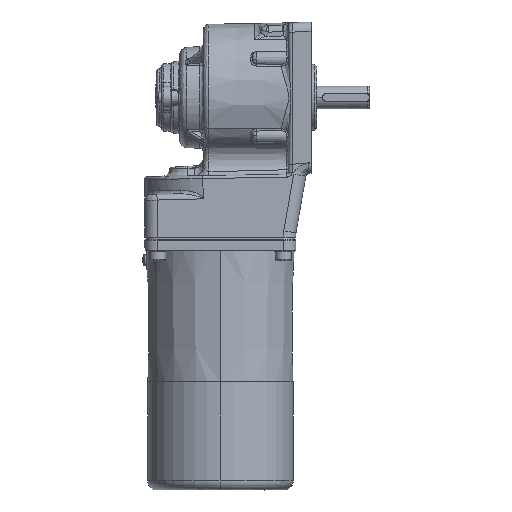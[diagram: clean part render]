
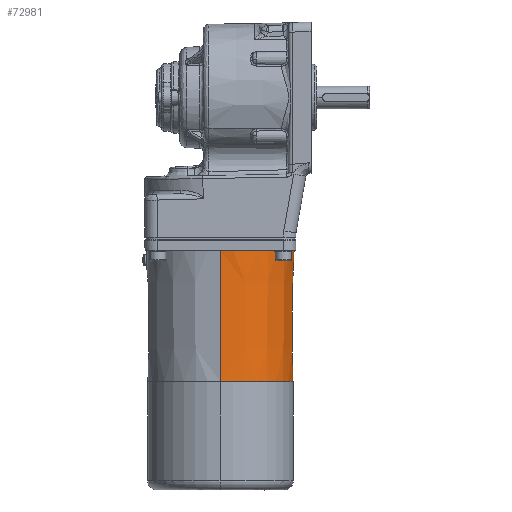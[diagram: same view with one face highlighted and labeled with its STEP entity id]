
A CAD part, front view. The second image highlights one B-rep face of the part: STEP entity #72981.
In plain terms, the highlighted conical face has half-angle 0.5 degrees and reference radius 39 mm.
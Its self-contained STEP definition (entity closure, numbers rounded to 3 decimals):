
#1733 = VERTEX_POINT ( 'NONE', #5508 ) ;
#5508 = CARTESIAN_POINT ( 'NONE',  ( 0., 69.5, -38.393 ) ) ;
#6216 = CARTESIAN_POINT ( 'NONE',  ( 0., 0., 0. ) ) ;
#6963 = ORIENTED_EDGE ( 'NONE', *, *, #81212, .T. ) ;
#12485 = CIRCLE ( 'NONE', #27875, 39. ) ;
#12793 = DIRECTION ( 'NONE',  ( 0., 0., -1. ) ) ;
#13127 = DIRECTION ( 'NONE',  ( 0., -1., 0. ) ) ;
#14614 = VECTOR ( 'NONE', #63664, 1000. ) ;
#15673 = LINE ( 'NONE', #18742, #14614 ) ;
#16644 = EDGE_LOOP ( 'NONE', ( #47864, #6963, #45558, #36335 ) ) ;
#18742 = CARTESIAN_POINT ( 'NONE',  ( 0., 0., 39. ) ) ;
#22161 = CONICAL_SURFACE ( 'NONE', #59115, 39., 0.009 ) ;
#27875 = AXIS2_PLACEMENT_3D ( 'NONE', #6216, #51429, #12793 ) ;
#30836 = CARTESIAN_POINT ( 'NONE',  ( 0., 69.5, 38.393 ) ) ;
#36335 = ORIENTED_EDGE ( 'NONE', *, *, #83055, .F. ) ;
#36976 = CARTESIAN_POINT ( 'NONE',  ( 0., 69.5, 0. ) ) ;
#43418 = DIRECTION ( 'NONE',  ( 0., 0., -1. ) ) ;
#45558 = ORIENTED_EDGE ( 'NONE', *, *, #80944, .T. ) ;
#46682 = CIRCLE ( 'NONE', #58057, 38.393 ) ;
#47864 = ORIENTED_EDGE ( 'NONE', *, *, #82594, .T. ) ;
#48672 = VERTEX_POINT ( 'NONE', #82534 ) ;
#51429 = DIRECTION ( 'NONE',  ( 0., 1., 0. ) ) ;
#52291 = LINE ( 'NONE', #55122, #52589 ) ;
#52589 = VECTOR ( 'NONE', #61603, 1000. ) ;
#55122 = CARTESIAN_POINT ( 'NONE',  ( 0., 0., -39. ) ) ;
#57585 = VERTEX_POINT ( 'NONE', #63389 ) ;
#58057 = AXIS2_PLACEMENT_3D ( 'NONE', #36976, #81659, #43418 ) ;
#58479 = VERTEX_POINT ( 'NONE', #30836 ) ;
#59115 = AXIS2_PLACEMENT_3D ( 'NONE', #77396, #13127, #81223 ) ;
#61603 = DIRECTION ( 'NONE',  ( 0., -1., -0.009 ) ) ;
#63389 = CARTESIAN_POINT ( 'NONE',  ( 0., 0., 39. ) ) ;
#63664 = DIRECTION ( 'NONE',  ( 0., -1., 0.009 ) ) ;
#69769 = FACE_OUTER_BOUND ( 'NONE', #16644, .T. ) ;
#72981 = ADVANCED_FACE ( 'NONE', ( #69769 ), #22161, .T. ) ;
#77396 = CARTESIAN_POINT ( 'NONE',  ( 0., 0., 0. ) ) ;
#80944 = EDGE_CURVE ( 'NONE', #57585, #48672, #12485, .T. ) ;
#81212 = EDGE_CURVE ( 'NONE', #58479, #57585, #15673, .T. ) ;
#81223 = DIRECTION ( 'NONE',  ( 0., 0., -1. ) ) ;
#81659 = DIRECTION ( 'NONE',  ( 0., -1., 0. ) ) ;
#82534 = CARTESIAN_POINT ( 'NONE',  ( 0., 0., -39. ) ) ;
#82594 = EDGE_CURVE ( 'NONE', #1733, #58479, #46682, .T. ) ;
#83055 = EDGE_CURVE ( 'NONE', #1733, #48672, #52291, .T. ) ;
